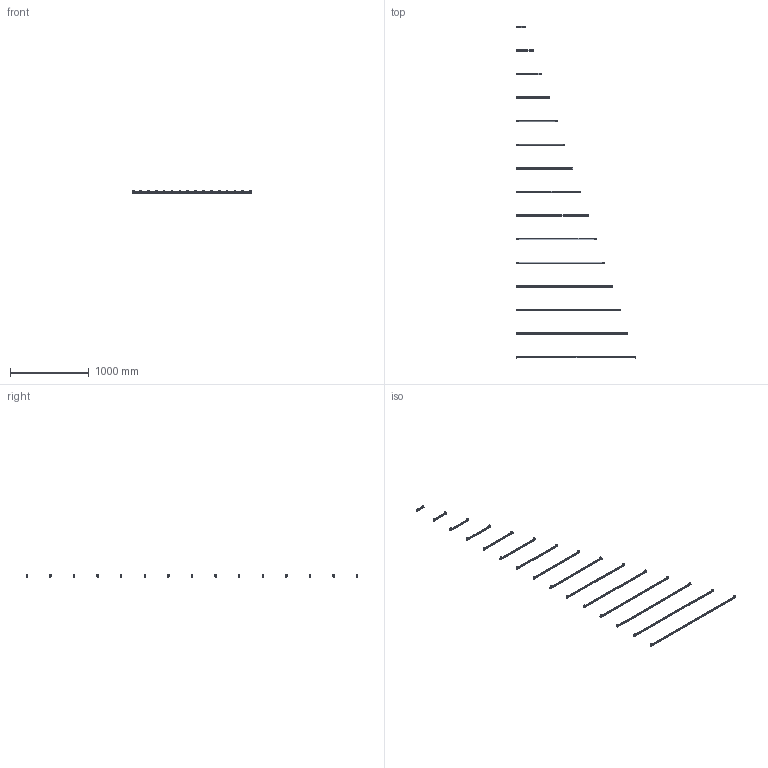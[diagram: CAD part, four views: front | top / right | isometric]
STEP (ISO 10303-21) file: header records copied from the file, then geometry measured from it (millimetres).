
FILE_DESCRIPTION(/* description */ (''),/* implementation_level */ '2;1');
FILE_NAME(/* name */ 'C:/Users/elena/OneDrive/Allegati di posta elettronica/Desktop/Piko Goccia 01B.step',/* time_stamp */ '2020-05-19T12:38:41+02:00',/* author */ (''),/* organization */ (''),/* preprocessor_version */ 'ST-DEVELOPER v18.1',/* originating_system */ 'Autodesk Translation Framework v9.3.0.1241',/* authorisation */ '');
FILE_SCHEMA (('AUTOMOTIVE_DESIGN { 1 0 10303 214 3 1 1 }'));
Products named in the file (2): Piko Goccia 01B; 01B
Assembly tree (1 placements, depth 2):
  Piko Goccia 01B
    01B
Bounding box: 1520 x 4219.81 x 30.83 mm (x, y, z)
Volume: 2999356.2 mm3; surface area: 1480944.3 mm2
Topology: 90 solids, 90 shells, 2088 faces, 5019 edges, 3261 vertices
Faces by surface type: cylinder 990, plane 918, bspline 150, cone 30
Full cylindrical faces by diameter (mm): 2.5 x60, 3 x30, 7 x60, 19.8 x30
Entity records: 78097 total; most frequent: CARTESIAN_POINT 28521, DIRECTION 10611, ORIENTED_EDGE 10038, EDGE_CURVE 5019, AXIS2_PLACEMENT_3D 3951, VERTEX_POINT 3261, LINE 2709, VECTOR 2709
